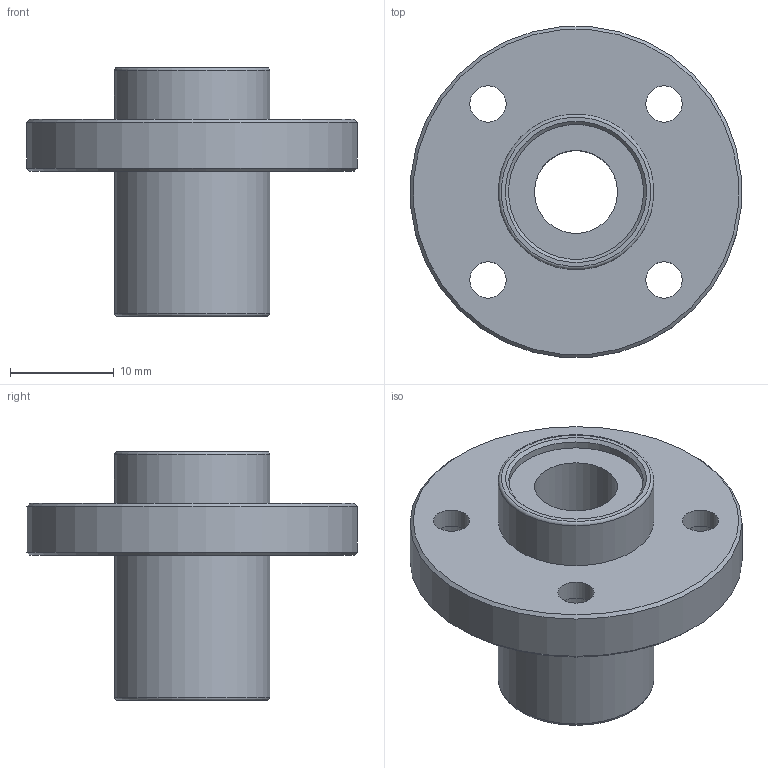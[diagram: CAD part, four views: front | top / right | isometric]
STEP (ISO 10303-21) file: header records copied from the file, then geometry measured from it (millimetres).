
FILE_DESCRIPTION(/* description */ (''),/* implementation_level */ '2;1');
FILE_NAME(/* name */ 'LMFP8UU',/* time_stamp */ '2019-07-03T11:34:17+02:00',/* author */ ('VĂ©gh MĂˇtĂ©'),/* organization */ ('Bearing Kft'),/* preprocessor_version */ 'ST-DEVELOPER v16.7',/* originating_system */ 'DEX',/* authorisation */ $);
FILE_SCHEMA (('AUTOMOTIVE_DESIGN {1 0 10303 214 3 1 1}'));
Length unit declared in the file: millimetre
Products named in the file (1): LMFP8UU
Bounding box: 31.88 x 31.88 x 24 mm (x, y, z)
Volume: 5568.6 mm3; surface area: 3729 mm2
Topology: 1 solids, 1 shells, 335 faces, 829 edges, 552 vertices
Faces by surface type: plane 248, bspline 65, cylinder 16, cone 4, torus 2
Full cylindrical faces by diameter (mm): 3.5 x4, 6 x4, 8 x1, 13 x2, 15 x2, 32 x1
Entity records: 12328 total; most frequent: CARTESIAN_POINT 4825, ORIENTED_EDGE 1604, DIRECTION 1252, EDGE_CURVE 802, LINE 634, VECTOR 634, VERTEX_POINT 548, EDGE_LOOP 424
